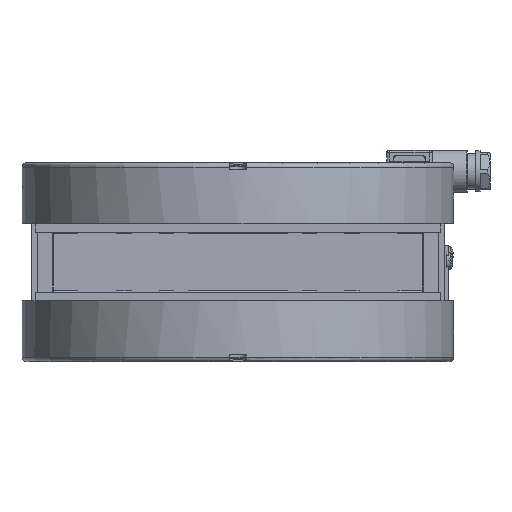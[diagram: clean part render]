
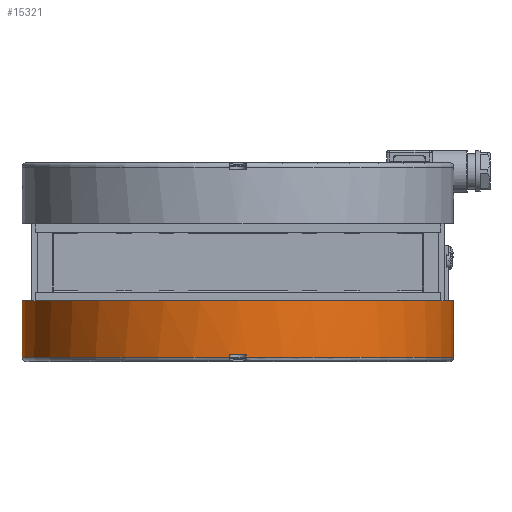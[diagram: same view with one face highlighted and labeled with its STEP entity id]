
A CAD part, front view. The second image highlights one B-rep face of the part: STEP entity #15321.
In plain terms, the highlighted cylindrical face has radius 75.8 mm (diameter 151.6 mm), a full revolution.
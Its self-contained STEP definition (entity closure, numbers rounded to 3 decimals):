
#6163=LINE('',#41749,#8051);
#6164=LINE('',#41753,#8052);
#6165=LINE('',#41757,#8053);
#6166=LINE('',#41761,#8054);
#8051=VECTOR('',#35289,1.);
#8052=VECTOR('',#35292,1.);
#8053=VECTOR('',#35295,1.);
#8054=VECTOR('',#35298,1.);
#15321=ADVANCED_FACE('',(#16588,#16589),#16219,.T.);
#16219=CYLINDRICAL_SURFACE('',#31565,75.8);
#16588=FACE_BOUND('',#17921,.T.);
#16589=FACE_BOUND('',#17922,.T.);
#17921=EDGE_LOOP('',(#21302));
#17922=EDGE_LOOP('',(#21303,#21304,#21305,#21306,#21307,#21308,#21309,#21310));
#21302=ORIENTED_EDGE('',*,*,#28327,.F.);
#21303=ORIENTED_EDGE('',*,*,#28307,.T.);
#21304=ORIENTED_EDGE('',*,*,#28328,.T.);
#21305=ORIENTED_EDGE('',*,*,#28329,.T.);
#21306=ORIENTED_EDGE('',*,*,#28330,.F.);
#21307=ORIENTED_EDGE('',*,*,#28331,.T.);
#21308=ORIENTED_EDGE('',*,*,#28332,.T.);
#21309=ORIENTED_EDGE('',*,*,#28333,.T.);
#21310=ORIENTED_EDGE('',*,*,#28334,.F.);
#25805=VERTEX_POINT('',#41672);
#25807=VERTEX_POINT('',#41675);
#25826=VERTEX_POINT('',#41748);
#25827=VERTEX_POINT('',#41750);
#25828=VERTEX_POINT('',#41752);
#25829=VERTEX_POINT('',#41754);
#25830=VERTEX_POINT('',#41756);
#25831=VERTEX_POINT('',#41758);
#25832=VERTEX_POINT('',#41760);
#28307=EDGE_CURVE('',#25807,#25805,#30345,.T.);
#28327=EDGE_CURVE('',#25826,#25826,#30347,.T.);
#28328=EDGE_CURVE('',#25805,#25827,#6163,.T.);
#28329=EDGE_CURVE('',#25827,#25828,#30348,.T.);
#28330=EDGE_CURVE('',#25829,#25828,#6164,.T.);
#28331=EDGE_CURVE('',#25829,#25830,#30349,.T.);
#28332=EDGE_CURVE('',#25830,#25831,#6165,.T.);
#28333=EDGE_CURVE('',#25831,#25832,#30350,.T.);
#28334=EDGE_CURVE('',#25807,#25832,#6166,.T.);
#30345=CIRCLE('',#31558,75.8);
#30347=CIRCLE('',#31561,75.8);
#30348=CIRCLE('',#31562,75.8);
#30349=CIRCLE('',#31563,75.8);
#30350=CIRCLE('',#31564,75.8);
#31558=AXIS2_PLACEMENT_3D('',#41674,#35274,#35275);
#31561=AXIS2_PLACEMENT_3D('',#41747,#35287,#35288);
#31562=AXIS2_PLACEMENT_3D('',#41751,#35290,#35291);
#31563=AXIS2_PLACEMENT_3D('',#41755,#35293,#35294);
#31564=AXIS2_PLACEMENT_3D('',#41759,#35296,#35297);
#31565=AXIS2_PLACEMENT_3D('',#41762,#35299,#35300);
#35274=DIRECTION('',(0.,-1.,0.));
#35275=DIRECTION('',(0.,0.,1.));
#35287=DIRECTION('',(0.,-1.,0.));
#35288=DIRECTION('',(0.,0.,-1.));
#35289=DIRECTION('',(0.,1.,0.));
#35290=DIRECTION('',(0.,-1.,0.));
#35291=DIRECTION('',(0.,0.,1.));
#35292=DIRECTION('',(0.,1.,0.));
#35293=DIRECTION('',(0.,-1.,0.));
#35294=DIRECTION('',(0.,0.,1.));
#35295=DIRECTION('',(0.,1.,0.));
#35296=DIRECTION('',(0.,-1.,0.));
#35297=DIRECTION('',(0.,0.,1.));
#35298=DIRECTION('',(0.,1.,0.));
#35299=DIRECTION('',(0.,-1.,0.));
#35300=DIRECTION('',(0.,0.,-1.));
#41672=CARTESIAN_POINT('',(75.741,18.9,3.));
#41674=CARTESIAN_POINT('',(0.,18.9,0.));
#41675=CARTESIAN_POINT('',(75.741,18.9,-3.));
#41747=CARTESIAN_POINT('',(0.,0.,0.));
#41748=CARTESIAN_POINT('',(0.,0.,-75.8));
#41749=CARTESIAN_POINT('',(75.741,18.9,3.));
#41750=CARTESIAN_POINT('',(75.741,19.9,3.));
#41751=CARTESIAN_POINT('',(0.,19.9,0.));
#41752=CARTESIAN_POINT('',(-75.741,19.9,3.));
#41753=CARTESIAN_POINT('',(-75.741,18.9,3.));
#41754=CARTESIAN_POINT('',(-75.741,18.9,3.));
#41755=CARTESIAN_POINT('',(0.,18.9,0.));
#41756=CARTESIAN_POINT('',(-75.741,18.9,-3.));
#41757=CARTESIAN_POINT('',(-75.741,18.9,-3.));
#41758=CARTESIAN_POINT('',(-75.741,19.9,-3.));
#41759=CARTESIAN_POINT('',(0.,19.9,0.));
#41760=CARTESIAN_POINT('',(75.741,19.9,-3.));
#41761=CARTESIAN_POINT('',(75.741,18.9,-3.));
#41762=CARTESIAN_POINT('',(0.,0.,0.));
